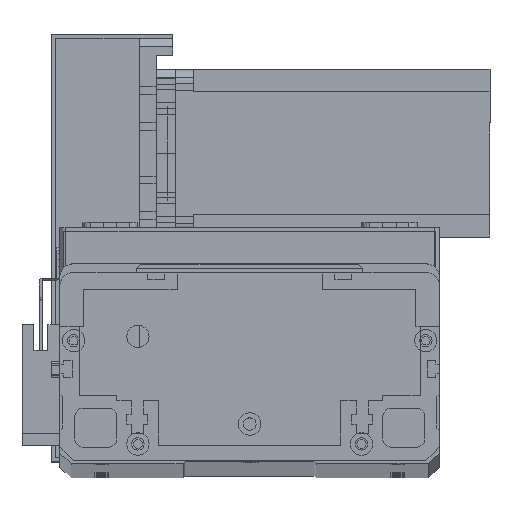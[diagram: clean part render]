
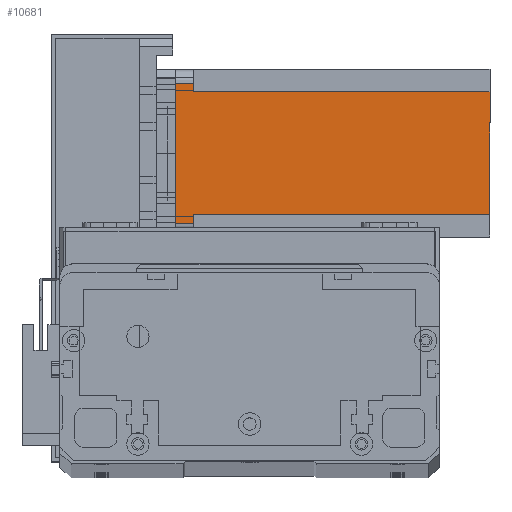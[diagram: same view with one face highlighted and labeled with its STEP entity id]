
A CAD part, top view. The second image highlights one B-rep face of the part: STEP entity #10681.
In plain terms, the highlighted planar face has unit normal (0, 0, 1) as drawn and (0, -1, 0) by its records, which use the part's own axes.
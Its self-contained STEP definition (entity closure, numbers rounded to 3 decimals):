
#384 = VECTOR ( 'NONE', #2744, 1000. ) ;
#446 = ORIENTED_EDGE ( 'NONE', *, *, #15718, .T. ) ;
#613 = LINE ( 'NONE', #22745, #18530 ) ;
#724 = VECTOR ( 'NONE', #11817, 1000. ) ;
#1844 = ORIENTED_EDGE ( 'NONE', *, *, #21002, .T. ) ;
#1906 = CARTESIAN_POINT ( 'NONE',  ( 5., 0., -6.5 ) ) ;
#2138 = ORIENTED_EDGE ( 'NONE', *, *, #15513, .T. ) ;
#2223 = CARTESIAN_POINT ( 'NONE',  ( 52., 0., -6.5 ) ) ;
#2424 = CARTESIAN_POINT ( 'NONE',  ( 8., 0., -112.5 ) ) ;
#2722 = VERTEX_POINT ( 'NONE', #1906 ) ;
#2744 = DIRECTION ( 'NONE',  ( 0., 0., 1. ) ) ;
#2987 = EDGE_CURVE ( 'NONE', #28224, #15193, #19826, .T. ) ;
#3154 = LINE ( 'NONE', #15134, #8130 ) ;
#4262 = VERTEX_POINT ( 'NONE', #4435 ) ;
#4293 = CARTESIAN_POINT ( 'NONE',  ( 52., 0., -112.5 ) ) ;
#4435 = CARTESIAN_POINT ( 'NONE',  ( 5., 0., 0. ) ) ;
#4740 = VERTEX_POINT ( 'NONE', #13869 ) ;
#5323 = EDGE_CURVE ( 'NONE', #15193, #2722, #5716, .T. ) ;
#5716 = LINE ( 'NONE', #12623, #17918 ) ;
#6949 = VERTEX_POINT ( 'NONE', #22425 ) ;
#8130 = VECTOR ( 'NONE', #19919, 1000. ) ;
#9048 = DIRECTION ( 'NONE',  ( 1., 0., 0. ) ) ;
#9225 = CARTESIAN_POINT ( 'NONE',  ( 0., 0., -112.5 ) ) ;
#9360 = VECTOR ( 'NONE', #14016, 1000. ) ;
#9563 = VECTOR ( 'NONE', #9945, 1000. ) ;
#9945 = DIRECTION ( 'NONE',  ( 0., 0., -1. ) ) ;
#10681 = ADVANCED_FACE ( 'NONE', ( #18500 ), #14710, .T. ) ;
#11013 = ORIENTED_EDGE ( 'NONE', *, *, #23571, .F. ) ;
#11817 = DIRECTION ( 'NONE',  ( 1., 0., 0. ) ) ;
#11851 = CARTESIAN_POINT ( 'NONE',  ( 52., 0., -6.5 ) ) ;
#12135 = DIRECTION ( 'NONE',  ( -1., 0., 0. ) ) ;
#12623 = CARTESIAN_POINT ( 'NONE',  ( 8., 0., -6.5 ) ) ;
#13298 = VECTOR ( 'NONE', #9048, 1000. ) ;
#13299 = VERTEX_POINT ( 'NONE', #2223 ) ;
#13869 = CARTESIAN_POINT ( 'NONE',  ( 55., 0., 0. ) ) ;
#14016 = DIRECTION ( 'NONE',  ( 0., 0., -1. ) ) ;
#14604 = DIRECTION ( 'NONE',  ( 0., 0., -1. ) ) ;
#14646 = DIRECTION ( 'NONE',  ( 0., -1., 0. ) ) ;
#14710 = PLANE ( 'NONE',  #25955 ) ;
#14790 = CARTESIAN_POINT ( 'NONE',  ( 0., 0., -112.5 ) ) ;
#15134 = CARTESIAN_POINT ( 'NONE',  ( 55., 0., -112.5 ) ) ;
#15193 = VERTEX_POINT ( 'NONE', #16325 ) ;
#15513 = EDGE_CURVE ( 'NONE', #13299, #29518, #19397, .T. ) ;
#15718 = EDGE_CURVE ( 'NONE', #28224, #6949, #26081, .T. ) ;
#16325 = CARTESIAN_POINT ( 'NONE',  ( 8., 0., -6.5 ) ) ;
#17918 = VECTOR ( 'NONE', #12135, 1000. ) ;
#18367 = ORIENTED_EDGE ( 'NONE', *, *, #5323, .F. ) ;
#18500 = FACE_OUTER_BOUND ( 'NONE', #30847, .T. ) ;
#18530 = VECTOR ( 'NONE', #25094, 1000. ) ;
#19397 = LINE ( 'NONE', #11851, #724 ) ;
#19826 = LINE ( 'NONE', #2424, #384 ) ;
#19919 = DIRECTION ( 'NONE',  ( 0., 0., 1. ) ) ;
#21002 = EDGE_CURVE ( 'NONE', #4262, #2722, #22488, .T. ) ;
#22425 = CARTESIAN_POINT ( 'NONE',  ( 52., 0., -112.5 ) ) ;
#22488 = LINE ( 'NONE', #26645, #9563 ) ;
#22745 = CARTESIAN_POINT ( 'NONE',  ( 0., 0., 0. ) ) ;
#23571 = EDGE_CURVE ( 'NONE', #4262, #4740, #613, .T. ) ;
#25094 = DIRECTION ( 'NONE',  ( 1., 0., 0. ) ) ;
#25292 = ORIENTED_EDGE ( 'NONE', *, *, #25482, .F. ) ;
#25482 = EDGE_CURVE ( 'NONE', #13299, #6949, #27713, .T. ) ;
#25955 = AXIS2_PLACEMENT_3D ( 'NONE', #14790, #14646, #14604 ) ;
#26047 = ORIENTED_EDGE ( 'NONE', *, *, #26687, .T. ) ;
#26081 = LINE ( 'NONE', #9225, #13298 ) ;
#26645 = CARTESIAN_POINT ( 'NONE',  ( 5., 0., -112.5 ) ) ;
#26687 = EDGE_CURVE ( 'NONE', #29518, #4740, #3154, .T. ) ;
#27713 = LINE ( 'NONE', #4293, #9360 ) ;
#28213 = ORIENTED_EDGE ( 'NONE', *, *, #2987, .F. ) ;
#28224 = VERTEX_POINT ( 'NONE', #28264 ) ;
#28264 = CARTESIAN_POINT ( 'NONE',  ( 8., 0., -112.5 ) ) ;
#29518 = VERTEX_POINT ( 'NONE', #30377 ) ;
#30377 = CARTESIAN_POINT ( 'NONE',  ( 55., 0., -6.5 ) ) ;
#30847 = EDGE_LOOP ( 'NONE', ( #2138, #26047, #11013, #1844, #18367, #28213, #446, #25292 ) ) ;
